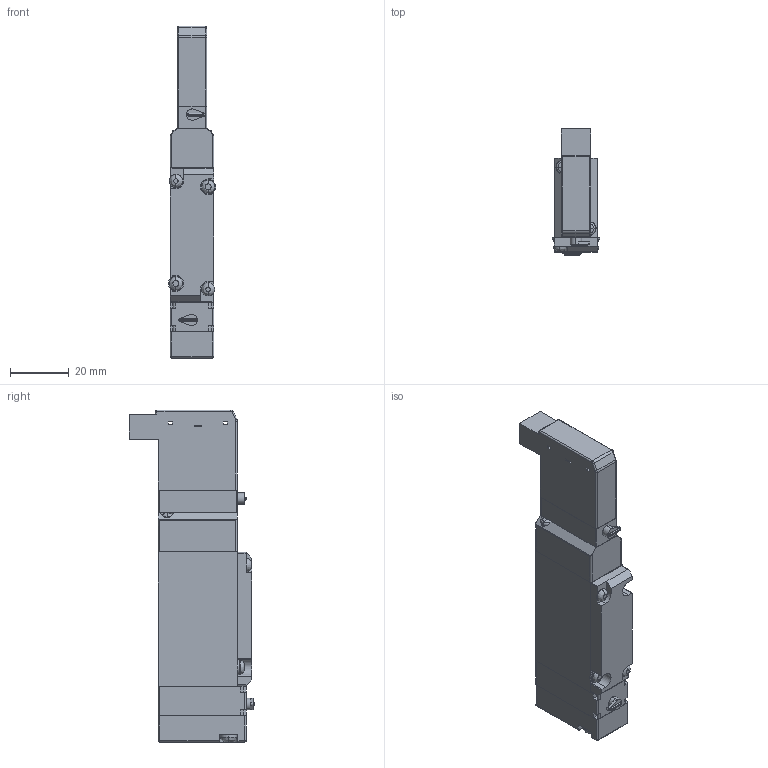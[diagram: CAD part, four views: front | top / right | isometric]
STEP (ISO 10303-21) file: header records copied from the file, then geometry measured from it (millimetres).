
FILE_DESCRIPTION( (''), '2;1');
FILE_NAME ('CVICAD02.3360.F15T3-R-A1_21818.stp','2021-07-12T19:14:29',(''),(''),'spGate 12.6.6','','');
FILE_SCHEMA (('AUTOMOTIVE_DESIGN'));
Length unit declared in the file: millimetre
Products named in the file (8): Assembly; CVICAD02-prt0; CVICAD02-prt1; CVICAD02-prt2; CVICAD02-prt3; CVICAD02-prt4; CVICAD02-prt5; CVICAD02-prt6
Assembly tree (7 placements, depth 2):
  Assembly
    CVICAD02-prt0
    CVICAD02-prt1
    CVICAD02-prt2
    CVICAD02-prt3
    CVICAD02-prt4
    CVICAD02-prt5
    CVICAD02-prt6
Bounding box: 16.2 x 42.99 x 113.5 mm (x, y, z)
Volume: 45151.3 mm3; surface area: 17244.4 mm2
Topology: 7 solids, 7 shells, 310 faces, 782 edges, 485 vertices
Faces by surface type: plane 155, cylinder 118, bspline 24, sphere 13
Entity records: 15914 total; most frequent: CARTESIAN_POINT 2266, ORIENTED_EDGE 1530, DIRECTION 1487, COLOUR_RGB 1082, PRESENTATION_STYLE_ASSIGNMENT 1082, STYLED_ITEM 1082, EDGE_CURVE 765, DRAUGHTING_PRE_DEFINED_CURVE_FONT 765
